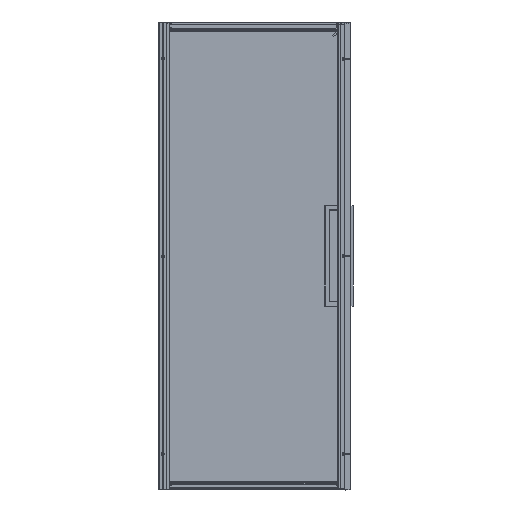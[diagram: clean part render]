
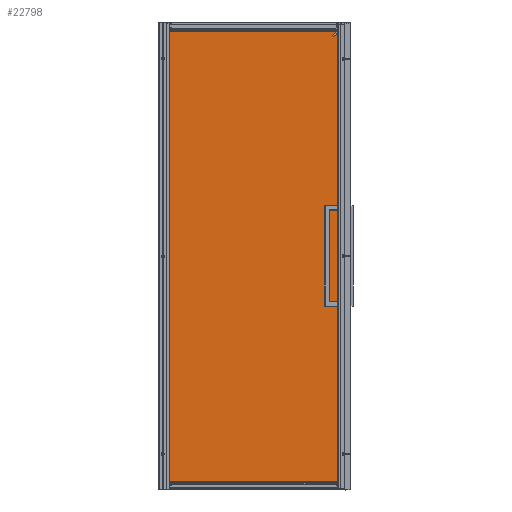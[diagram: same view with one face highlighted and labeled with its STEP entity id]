
A CAD part, left-side view. The second image highlights one B-rep face of the part: STEP entity #22798.
In plain terms, the highlighted planar face has unit normal (-1, 0, 0) as drawn and (0, 0, 1) by its records, which use the part's own axes.
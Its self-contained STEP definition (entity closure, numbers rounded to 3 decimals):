
#22683=DIRECTION('',(0.,-1.,0.));
#22684=VECTOR('',#22683,1899.);
#22685=CARTESIAN_POINT('',(-368.5,949.5,4.));
#22686=LINE('',#22685,#22684);
#22687=DIRECTION('',(-1.,0.,0.));
#22688=VECTOR('',#22687,737.);
#22689=CARTESIAN_POINT('',(368.5,949.5,4.));
#22690=LINE('',#22689,#22688);
#22691=DIRECTION('',(0.,1.,0.));
#22692=VECTOR('',#22691,1899.);
#22693=CARTESIAN_POINT('',(368.5,-949.5,4.));
#22694=LINE('',#22693,#22692);
#22695=DIRECTION('',(1.,0.,0.));
#22696=VECTOR('',#22695,737.);
#22697=CARTESIAN_POINT('',(-368.5,-949.5,4.));
#22698=LINE('',#22697,#22696);
#22707=CARTESIAN_POINT('',(-368.5,949.5,4.));
#22708=CARTESIAN_POINT('',(-368.5,-949.5,4.));
#22709=VERTEX_POINT('',#22707);
#22710=VERTEX_POINT('',#22708);
#22711=CARTESIAN_POINT('',(368.5,-949.5,4.));
#22712=VERTEX_POINT('',#22711);
#22713=CARTESIAN_POINT('',(368.5,949.5,4.));
#22714=VERTEX_POINT('',#22713);
#22787=CARTESIAN_POINT('',(0.,0.,4.));
#22788=DIRECTION('',(0.,0.,1.));
#22789=DIRECTION('',(1.,0.,0.));
#22790=AXIS2_PLACEMENT_3D('',#22787,#22788,#22789);
#22791=PLANE('',#22790);
#22792=ORIENTED_EDGE('',*,*,#22739,.F.);
#22793=ORIENTED_EDGE('',*,*,#22754,.F.);
#22794=ORIENTED_EDGE('',*,*,#22768,.F.);
#22795=ORIENTED_EDGE('',*,*,#22781,.F.);
#22796=EDGE_LOOP('',(#22792,#22793,#22794,#22795));
#22797=FACE_OUTER_BOUND('',#22796,.F.);
#22798=ADVANCED_FACE('',(#22797),#22791,.T.);
#22739=EDGE_CURVE('',#22709,#22710,#22686,.T.);
#22754=EDGE_CURVE('',#22714,#22709,#22690,.T.);
#22768=EDGE_CURVE('',#22712,#22714,#22694,.T.);
#22781=EDGE_CURVE('',#22710,#22712,#22698,.T.);
